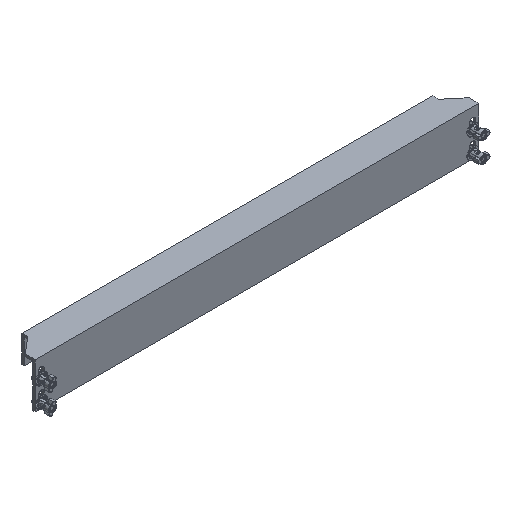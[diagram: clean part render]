
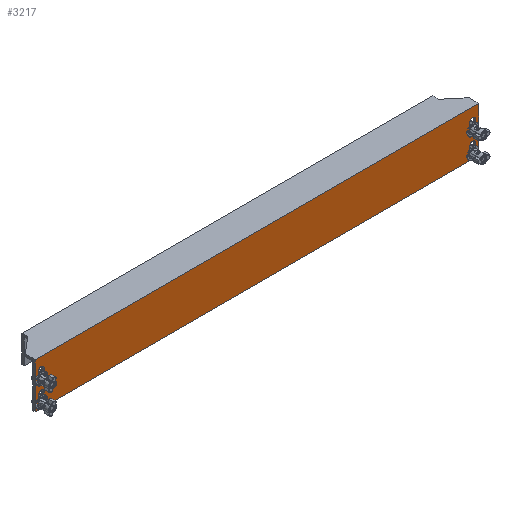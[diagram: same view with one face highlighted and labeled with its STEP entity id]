
A CAD part, isometric view. The second image highlights one B-rep face of the part: STEP entity #3217.
In plain terms, the highlighted planar face has unit normal (0, -1, 0) as drawn and (0, 0, -1) by its records, which use the part's own axes.
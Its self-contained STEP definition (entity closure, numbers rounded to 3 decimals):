
#2258 = VERTEX_POINT('',#2259);
#2259 = CARTESIAN_POINT('',(270.,16.5,-36.));
#2265 = EDGE_CURVE('',#2266,#2258,#2268,.T.);
#2266 = VERTEX_POINT('',#2267);
#2267 = CARTESIAN_POINT('',(-270.,16.5,-36.));
#2268 = LINE('',#2269,#2270);
#2269 = CARTESIAN_POINT('',(0.,16.5,-36.));
#2270 = VECTOR('',#2271,1.);
#2271 = DIRECTION('',(1.,-0.,-0.));
#3096 = VERTEX_POINT('',#3097);
#3097 = CARTESIAN_POINT('',(-270.,12.9,-36.));
#3112 = EDGE_CURVE('',#3096,#2266,#3113,.T.);
#3113 = LINE('',#3114,#3115);
#3114 = CARTESIAN_POINT('',(-270.,12.9,-36.));
#3115 = VECTOR('',#3116,1.);
#3116 = DIRECTION('',(-0.,1.,0.));
#3136 = VERTEX_POINT('',#3137);
#3137 = CARTESIAN_POINT('',(270.,12.9,-36.));
#3143 = EDGE_CURVE('',#3136,#2258,#3144,.T.);
#3144 = LINE('',#3145,#3146);
#3145 = CARTESIAN_POINT('',(270.,0.,-36.));
#3146 = VECTOR('',#3147,1.);
#3147 = DIRECTION('',(0.,1.,0.));
#3159 = EDGE_CURVE('',#3160,#3136,#3162,.T.);
#3160 = VERTEX_POINT('',#3161);
#3161 = CARTESIAN_POINT('',(270.,-38.5,-36.));
#3162 = LINE('',#3163,#3164);
#3163 = CARTESIAN_POINT('',(270.,13.5,-36.));
#3164 = VECTOR('',#3165,1.);
#3165 = DIRECTION('',(-0.,1.,0.));
#3199 = EDGE_CURVE('',#3096,#3200,#3202,.T.);
#3200 = VERTEX_POINT('',#3201);
#3201 = CARTESIAN_POINT('',(-270.,-38.5,-36.));
#3202 = LINE('',#3203,#3204);
#3203 = CARTESIAN_POINT('',(-270.,-38.5,-36.));
#3204 = VECTOR('',#3205,1.);
#3205 = DIRECTION('',(0.,-1.,0.));
#3217 = ADVANCED_FACE('',(#3218,#3254,#3290,#3326,#3362),#3375,.T.);
#3218 = FACE_BOUND('',#3219,.T.);
#3219 = EDGE_LOOP('',(#3220,#3231,#3239,#3248));
#3220 = ORIENTED_EDGE('',*,*,#3221,.F.);
#3221 = EDGE_CURVE('',#3222,#3224,#3226,.T.);
#3222 = VERTEX_POINT('',#3223);
#3223 = CARTESIAN_POINT('',(259.,-23.,-36.));
#3224 = VERTEX_POINT('',#3225);
#3225 = CARTESIAN_POINT('',(266.,-23.,-36.));
#3226 = CIRCLE('',#3227,3.5);
#3227 = AXIS2_PLACEMENT_3D('',#3228,#3229,#3230);
#3228 = CARTESIAN_POINT('',(262.5,-23.,-36.));
#3229 = DIRECTION('',(0.,0.,-1.));
#3230 = DIRECTION('',(0.,1.,0.));
#3231 = ORIENTED_EDGE('',*,*,#3232,.F.);
#3232 = EDGE_CURVE('',#3233,#3222,#3235,.T.);
#3233 = VERTEX_POINT('',#3234);
#3234 = CARTESIAN_POINT('',(259.,-32.,-36.));
#3235 = LINE('',#3236,#3237);
#3236 = CARTESIAN_POINT('',(259.,0.,-36.));
#3237 = VECTOR('',#3238,1.);
#3238 = DIRECTION('',(0.,1.,0.));
#3239 = ORIENTED_EDGE('',*,*,#3240,.F.);
#3240 = EDGE_CURVE('',#3241,#3233,#3243,.T.);
#3241 = VERTEX_POINT('',#3242);
#3242 = CARTESIAN_POINT('',(266.,-32.,-36.));
#3243 = CIRCLE('',#3244,3.5);
#3244 = AXIS2_PLACEMENT_3D('',#3245,#3246,#3247);
#3245 = CARTESIAN_POINT('',(262.5,-32.,-36.));
#3246 = DIRECTION('',(0.,0.,-1.));
#3247 = DIRECTION('',(0.,1.,0.));
#3248 = ORIENTED_EDGE('',*,*,#3249,.F.);
#3249 = EDGE_CURVE('',#3224,#3241,#3250,.T.);
#3250 = LINE('',#3251,#3252);
#3251 = CARTESIAN_POINT('',(266.,0.,-36.));
#3252 = VECTOR('',#3253,1.);
#3253 = DIRECTION('',(0.,-1.,0.));
#3254 = FACE_BOUND('',#3255,.T.);
#3255 = EDGE_LOOP('',(#3256,#3267,#3275,#3284));
#3256 = ORIENTED_EDGE('',*,*,#3257,.F.);
#3257 = EDGE_CURVE('',#3258,#3260,#3262,.T.);
#3258 = VERTEX_POINT('',#3259);
#3259 = CARTESIAN_POINT('',(-266.,-23.,-36.));
#3260 = VERTEX_POINT('',#3261);
#3261 = CARTESIAN_POINT('',(-259.,-23.,-36.));
#3262 = CIRCLE('',#3263,3.5);
#3263 = AXIS2_PLACEMENT_3D('',#3264,#3265,#3266);
#3264 = CARTESIAN_POINT('',(-262.5,-23.,-36.));
#3265 = DIRECTION('',(0.,0.,-1.));
#3266 = DIRECTION('',(0.,1.,0.));
#3267 = ORIENTED_EDGE('',*,*,#3268,.F.);
#3268 = EDGE_CURVE('',#3269,#3258,#3271,.T.);
#3269 = VERTEX_POINT('',#3270);
#3270 = CARTESIAN_POINT('',(-266.,-32.,-36.));
#3271 = LINE('',#3272,#3273);
#3272 = CARTESIAN_POINT('',(-266.,0.,-36.));
#3273 = VECTOR('',#3274,1.);
#3274 = DIRECTION('',(0.,1.,0.));
#3275 = ORIENTED_EDGE('',*,*,#3276,.F.);
#3276 = EDGE_CURVE('',#3277,#3269,#3279,.T.);
#3277 = VERTEX_POINT('',#3278);
#3278 = CARTESIAN_POINT('',(-259.,-32.,-36.));
#3279 = CIRCLE('',#3280,3.5);
#3280 = AXIS2_PLACEMENT_3D('',#3281,#3282,#3283);
#3281 = CARTESIAN_POINT('',(-262.5,-32.,-36.));
#3282 = DIRECTION('',(0.,0.,-1.));
#3283 = DIRECTION('',(0.,1.,0.));
#3284 = ORIENTED_EDGE('',*,*,#3285,.F.);
#3285 = EDGE_CURVE('',#3260,#3277,#3286,.T.);
#3286 = LINE('',#3287,#3288);
#3287 = CARTESIAN_POINT('',(-259.,0.,-36.));
#3288 = VECTOR('',#3289,1.);
#3289 = DIRECTION('',(0.,-1.,0.));
#3290 = FACE_BOUND('',#3291,.T.);
#3291 = EDGE_LOOP('',(#3292,#3303,#3311,#3320));
#3292 = ORIENTED_EDGE('',*,*,#3293,.F.);
#3293 = EDGE_CURVE('',#3294,#3296,#3298,.T.);
#3294 = VERTEX_POINT('',#3295);
#3295 = CARTESIAN_POINT('',(259.,2.,-36.));
#3296 = VERTEX_POINT('',#3297);
#3297 = CARTESIAN_POINT('',(266.,2.,-36.));
#3298 = CIRCLE('',#3299,3.5);
#3299 = AXIS2_PLACEMENT_3D('',#3300,#3301,#3302);
#3300 = CARTESIAN_POINT('',(262.5,2.,-36.));
#3301 = DIRECTION('',(0.,0.,-1.));
#3302 = DIRECTION('',(0.,1.,0.));
#3303 = ORIENTED_EDGE('',*,*,#3304,.F.);
#3304 = EDGE_CURVE('',#3305,#3294,#3307,.T.);
#3305 = VERTEX_POINT('',#3306);
#3306 = CARTESIAN_POINT('',(259.,-7.,-36.));
#3307 = LINE('',#3308,#3309);
#3308 = CARTESIAN_POINT('',(259.,0.,-36.));
#3309 = VECTOR('',#3310,1.);
#3310 = DIRECTION('',(0.,1.,0.));
#3311 = ORIENTED_EDGE('',*,*,#3312,.F.);
#3312 = EDGE_CURVE('',#3313,#3305,#3315,.T.);
#3313 = VERTEX_POINT('',#3314);
#3314 = CARTESIAN_POINT('',(266.,-7.,-36.));
#3315 = CIRCLE('',#3316,3.5);
#3316 = AXIS2_PLACEMENT_3D('',#3317,#3318,#3319);
#3317 = CARTESIAN_POINT('',(262.5,-7.,-36.));
#3318 = DIRECTION('',(0.,0.,-1.));
#3319 = DIRECTION('',(0.,1.,0.));
#3320 = ORIENTED_EDGE('',*,*,#3321,.F.);
#3321 = EDGE_CURVE('',#3296,#3313,#3322,.T.);
#3322 = LINE('',#3323,#3324);
#3323 = CARTESIAN_POINT('',(266.,0.,-36.));
#3324 = VECTOR('',#3325,1.);
#3325 = DIRECTION('',(0.,-1.,0.));
#3326 = FACE_BOUND('',#3327,.T.);
#3327 = EDGE_LOOP('',(#3328,#3339,#3347,#3356));
#3328 = ORIENTED_EDGE('',*,*,#3329,.F.);
#3329 = EDGE_CURVE('',#3330,#3332,#3334,.T.);
#3330 = VERTEX_POINT('',#3331);
#3331 = CARTESIAN_POINT('',(-266.,2.,-36.));
#3332 = VERTEX_POINT('',#3333);
#3333 = CARTESIAN_POINT('',(-259.,2.,-36.));
#3334 = CIRCLE('',#3335,3.5);
#3335 = AXIS2_PLACEMENT_3D('',#3336,#3337,#3338);
#3336 = CARTESIAN_POINT('',(-262.5,2.,-36.));
#3337 = DIRECTION('',(0.,0.,-1.));
#3338 = DIRECTION('',(0.,1.,0.));
#3339 = ORIENTED_EDGE('',*,*,#3340,.F.);
#3340 = EDGE_CURVE('',#3341,#3330,#3343,.T.);
#3341 = VERTEX_POINT('',#3342);
#3342 = CARTESIAN_POINT('',(-266.,-7.,-36.));
#3343 = LINE('',#3344,#3345);
#3344 = CARTESIAN_POINT('',(-266.,0.,-36.));
#3345 = VECTOR('',#3346,1.);
#3346 = DIRECTION('',(0.,1.,0.));
#3347 = ORIENTED_EDGE('',*,*,#3348,.F.);
#3348 = EDGE_CURVE('',#3349,#3341,#3351,.T.);
#3349 = VERTEX_POINT('',#3350);
#3350 = CARTESIAN_POINT('',(-259.,-7.,-36.));
#3351 = CIRCLE('',#3352,3.5);
#3352 = AXIS2_PLACEMENT_3D('',#3353,#3354,#3355);
#3353 = CARTESIAN_POINT('',(-262.5,-7.,-36.));
#3354 = DIRECTION('',(0.,0.,-1.));
#3355 = DIRECTION('',(0.,1.,0.));
#3356 = ORIENTED_EDGE('',*,*,#3357,.F.);
#3357 = EDGE_CURVE('',#3332,#3349,#3358,.T.);
#3358 = LINE('',#3359,#3360);
#3359 = CARTESIAN_POINT('',(-259.,0.,-36.));
#3360 = VECTOR('',#3361,1.);
#3361 = DIRECTION('',(0.,-1.,0.));
#3362 = FACE_BOUND('',#3363,.T.);
#3363 = EDGE_LOOP('',(#3364,#3365,#3366,#3367,#3368,#3369));
#3364 = ORIENTED_EDGE('',*,*,#3199,.F.);
#3365 = ORIENTED_EDGE('',*,*,#3112,.T.);
#3366 = ORIENTED_EDGE('',*,*,#2265,.T.);
#3367 = ORIENTED_EDGE('',*,*,#3143,.F.);
#3368 = ORIENTED_EDGE('',*,*,#3159,.F.);
#3369 = ORIENTED_EDGE('',*,*,#3370,.F.);
#3370 = EDGE_CURVE('',#3200,#3160,#3371,.T.);
#3371 = LINE('',#3372,#3373);
#3372 = CARTESIAN_POINT('',(270.,-38.5,-36.));
#3373 = VECTOR('',#3374,1.);
#3374 = DIRECTION('',(1.,0.,0.));
#3375 = PLANE('',#3376);
#3376 = AXIS2_PLACEMENT_3D('',#3377,#3378,#3379);
#3377 = CARTESIAN_POINT('',(0.,0.,-36.));
#3378 = DIRECTION('',(0.,0.,-1.));
#3379 = DIRECTION('',(0.,1.,0.));
